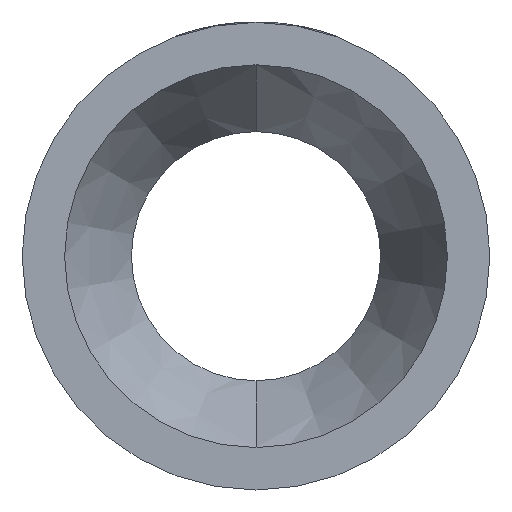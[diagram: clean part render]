
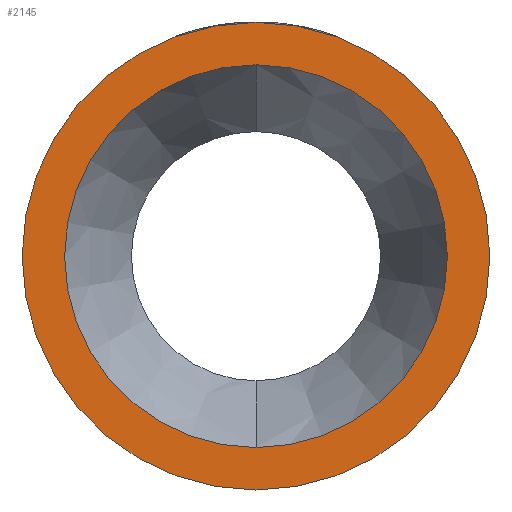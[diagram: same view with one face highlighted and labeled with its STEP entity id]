
A CAD part, left-side view. The second image highlights one B-rep face of the part: STEP entity #2145.
In plain terms, the highlighted planar face has unit normal (-1, 0, 0).
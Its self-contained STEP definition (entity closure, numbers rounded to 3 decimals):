
#105 = DIRECTION ( 'NONE',  ( 0., 0., 1. ) ) ;
#112 = DIRECTION ( 'NONE',  ( -1., 0., 0. ) ) ;
#116 = CARTESIAN_POINT ( 'NONE',  ( 0., 0., 0. ) ) ;
#138 = CIRCLE ( 'NONE', #403, 257.8 ) ;
#294 = CIRCLE ( 'NONE', #399, 315. ) ;
#399 = AXIS2_PLACEMENT_3D ( 'NONE', #116, #112, #105 ) ;
#403 = AXIS2_PLACEMENT_3D ( 'NONE', #1633, #2866, #1592 ) ;
#561 = CARTESIAN_POINT ( 'NONE',  ( 0., 0., -315. ) ) ;
#707 = CARTESIAN_POINT ( 'NONE',  ( 0., 0., 315. ) ) ;
#763 = CIRCLE ( 'NONE', #799, 257.8 ) ;
#799 = AXIS2_PLACEMENT_3D ( 'NONE', #1646, #1641, #1629 ) ;
#923 = CARTESIAN_POINT ( 'NONE',  ( 0., 0., -257.8 ) ) ;
#930 = DIRECTION ( 'NONE',  ( 0., 0., 1. ) ) ;
#1027 = DIRECTION ( 'NONE',  ( -1., 0., 0. ) ) ;
#1041 = CARTESIAN_POINT ( 'NONE',  ( 0., 0., 0. ) ) ;
#1057 = AXIS2_PLACEMENT_3D ( 'NONE', #1041, #1027, #930 ) ;
#1111 = FACE_OUTER_BOUND ( 'NONE', #3094, .T. ) ;
#1114 = CIRCLE ( 'NONE', #1057, 315. ) ;
#1322 = DIRECTION ( 'NONE',  ( 0., 0., -1. ) ) ;
#1326 = DIRECTION ( 'NONE',  ( 1., 0., 0. ) ) ;
#1336 = CARTESIAN_POINT ( 'NONE',  ( 0., 257.8, 0. ) ) ;
#1382 = PLANE ( 'NONE',  #2150 ) ;
#1592 = DIRECTION ( 'NONE',  ( 0., 0., 1. ) ) ;
#1602 = ORIENTED_EDGE ( 'NONE', *, *, #3392, .T. ) ;
#1629 = DIRECTION ( 'NONE',  ( 0., 0., 1. ) ) ;
#1633 = CARTESIAN_POINT ( 'NONE',  ( 0., 0., 0. ) ) ;
#1641 = DIRECTION ( 'NONE',  ( -1., 0., 0. ) ) ;
#1646 = CARTESIAN_POINT ( 'NONE',  ( 0., 0., 0. ) ) ;
#2045 = CARTESIAN_POINT ( 'NONE',  ( 0., 0., 257.8 ) ) ;
#2141 = ORIENTED_EDGE ( 'NONE', *, *, #3363, .F. ) ;
#2145 = ADVANCED_FACE ( 'NONE', ( #3437, #1111 ), #1382, .F. ) ;
#2150 = AXIS2_PLACEMENT_3D ( 'NONE', #1336, #1326, #1322 ) ;
#2152 = ORIENTED_EDGE ( 'NONE', *, *, #3004, .F. ) ;
#2160 = ORIENTED_EDGE ( 'NONE', *, *, #2455, .T. ) ;
#2236 = VERTEX_POINT ( 'NONE', #561 ) ;
#2455 = EDGE_CURVE ( 'NONE', #3247, #2236, #1114, .T. ) ;
#2866 = DIRECTION ( 'NONE',  ( -1., 0., 0. ) ) ;
#2966 = VERTEX_POINT ( 'NONE', #2045 ) ;
#3004 = EDGE_CURVE ( 'NONE', #3635, #2966, #763, .T. ) ;
#3076 = EDGE_LOOP ( 'NONE', ( #2141, #2152 ) ) ;
#3094 = EDGE_LOOP ( 'NONE', ( #2160, #1602 ) ) ;
#3247 = VERTEX_POINT ( 'NONE', #707 ) ;
#3363 = EDGE_CURVE ( 'NONE', #2966, #3635, #138, .T. ) ;
#3392 = EDGE_CURVE ( 'NONE', #2236, #3247, #294, .T. ) ;
#3437 = FACE_BOUND ( 'NONE', #3076, .T. ) ;
#3635 = VERTEX_POINT ( 'NONE', #923 ) ;
